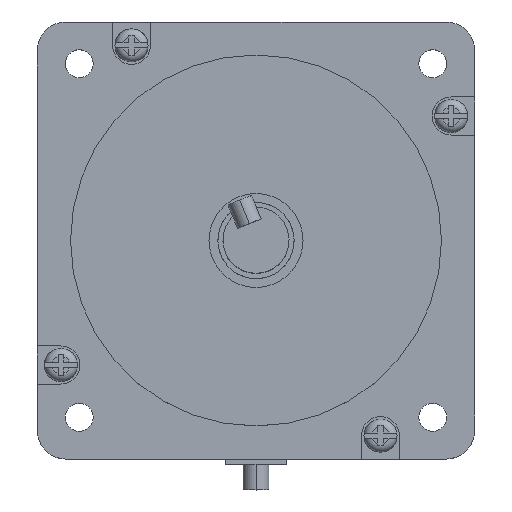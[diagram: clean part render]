
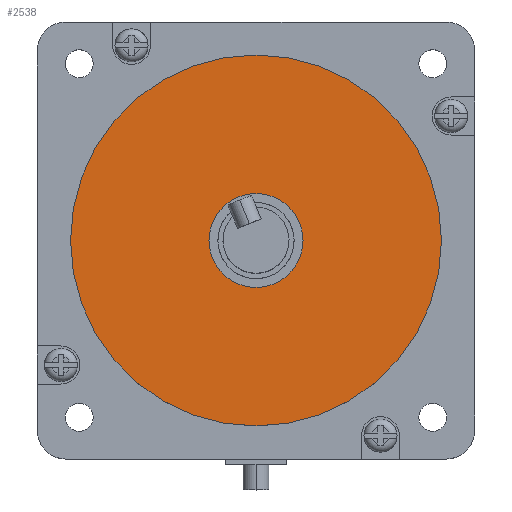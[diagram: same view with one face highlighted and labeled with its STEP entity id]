
A CAD part, top view. The second image highlights one B-rep face of the part: STEP entity #2538.
In plain terms, the highlighted planar face has unit normal (0, 0, 1).
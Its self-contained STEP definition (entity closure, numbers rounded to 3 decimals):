
#119 = DIRECTION ( 'NONE',  ( 1., 0., 0. ) ) ;
#241 = DIRECTION ( 'NONE',  ( 0., 0., 1. ) ) ;
#281 = EDGE_CURVE ( 'NONE', #358, #3059, #6316, .T. ) ;
#358 = VERTEX_POINT ( 'NONE', #7762 ) ;
#817 = DIRECTION ( 'NONE',  ( 0., 0., 1. ) ) ;
#983 = CIRCLE ( 'NONE', #4735, 9.25 ) ;
#1052 = CARTESIAN_POINT ( 'NONE',  ( 0., 0., 18.6 ) ) ;
#1313 = ORIENTED_EDGE ( 'NONE', *, *, #2943, .T. ) ;
#1518 = CARTESIAN_POINT ( 'NONE',  ( 0., 0., 18.6 ) ) ;
#1568 = DIRECTION ( 'NONE',  ( 1., 0., 0. ) ) ;
#1574 = DIRECTION ( 'NONE',  ( 1., 0., 0. ) ) ;
#1747 = AXIS2_PLACEMENT_3D ( 'NONE', #1518, #241, #2008 ) ;
#1750 = PLANE ( 'NONE',  #3394 ) ;
#2008 = DIRECTION ( 'NONE',  ( 1., 0., 0. ) ) ;
#2072 = FACE_OUTER_BOUND ( 'NONE', #6148, .T. ) ;
#2229 = CARTESIAN_POINT ( 'NONE',  ( -9.25, 0., 18.6 ) ) ;
#2260 = FACE_BOUND ( 'NONE', #5931, .T. ) ;
#2296 = ORIENTED_EDGE ( 'NONE', *, *, #3472, .F. ) ;
#2538 = ADVANCED_FACE ( 'NONE', ( #2260, #2072 ), #1750, .T. ) ;
#2703 = ORIENTED_EDGE ( 'NONE', *, *, #6085, .F. ) ;
#2943 = EDGE_CURVE ( 'NONE', #3059, #358, #6618, .T. ) ;
#3059 = VERTEX_POINT ( 'NONE', #5279 ) ;
#3178 = ORIENTED_EDGE ( 'NONE', *, *, #281, .T. ) ;
#3394 = AXIS2_PLACEMENT_3D ( 'NONE', #6040, #6509, #6534 ) ;
#3472 = EDGE_CURVE ( 'NONE', #6614, #3741, #983, .T. ) ;
#3741 = VERTEX_POINT ( 'NONE', #2229 ) ;
#4735 = AXIS2_PLACEMENT_3D ( 'NONE', #5017, #817, #119 ) ;
#4821 = CIRCLE ( 'NONE', #5011, 9.25 ) ;
#5011 = AXIS2_PLACEMENT_3D ( 'NONE', #5924, #5251, #1568 ) ;
#5017 = CARTESIAN_POINT ( 'NONE',  ( 0., 0., 18.6 ) ) ;
#5251 = DIRECTION ( 'NONE',  ( 0., 0., 1. ) ) ;
#5279 = CARTESIAN_POINT ( 'NONE',  ( -36.5, 0., 18.6 ) ) ;
#5867 = CARTESIAN_POINT ( 'NONE',  ( 9.25, 0., 18.6 ) ) ;
#5924 = CARTESIAN_POINT ( 'NONE',  ( 0., 0., 18.6 ) ) ;
#5931 = EDGE_LOOP ( 'NONE', ( #2296, #2703 ) ) ;
#5991 = AXIS2_PLACEMENT_3D ( 'NONE', #1052, #7730, #1574 ) ;
#6040 = CARTESIAN_POINT ( 'NONE',  ( 0., 0., 18.6 ) ) ;
#6085 = EDGE_CURVE ( 'NONE', #3741, #6614, #4821, .T. ) ;
#6148 = EDGE_LOOP ( 'NONE', ( #1313, #3178 ) ) ;
#6316 = CIRCLE ( 'NONE', #5991, 36.5 ) ;
#6509 = DIRECTION ( 'NONE',  ( 0., 0., 1. ) ) ;
#6534 = DIRECTION ( 'NONE',  ( 1., 0., 0. ) ) ;
#6614 = VERTEX_POINT ( 'NONE', #5867 ) ;
#6618 = CIRCLE ( 'NONE', #1747, 36.5 ) ;
#7730 = DIRECTION ( 'NONE',  ( 0., 0., 1. ) ) ;
#7762 = CARTESIAN_POINT ( 'NONE',  ( 36.5, 0., 18.6 ) ) ;
